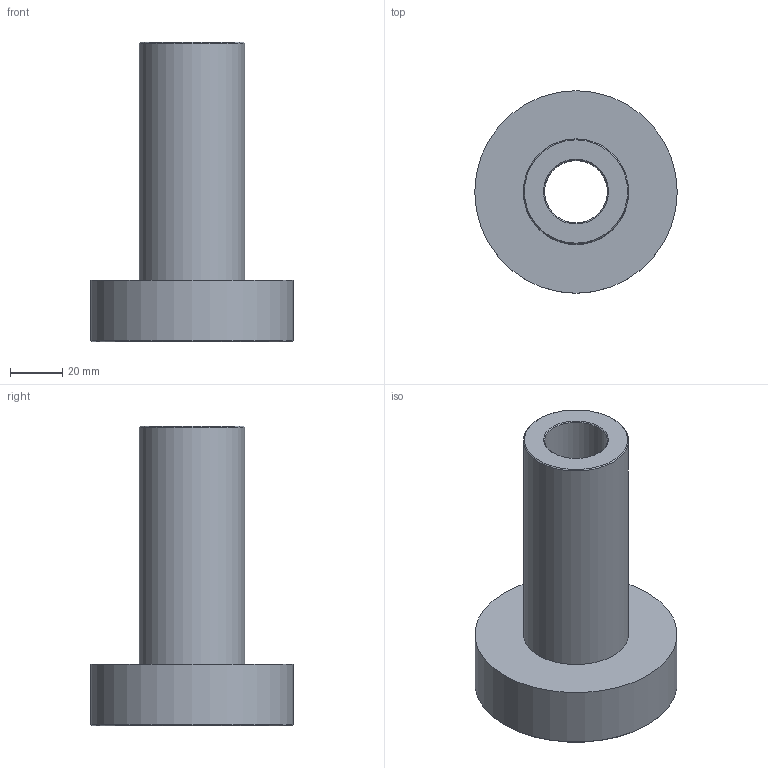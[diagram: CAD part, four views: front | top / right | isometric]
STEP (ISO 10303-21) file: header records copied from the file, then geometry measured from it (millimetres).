
FILE_DESCRIPTION(('Mechanical CAD reference from nasji.com'),'2;1');
FILE_NAME('NASJI.step','',(''),(''),'','NASJI distribution','');
FILE_SCHEMA(('AUTOMOTIVE_DESIGN { 1 0 10303 214 1 1 1 1 }'));
Length unit declared in the file: millimetre
Products named in the file (1): Open CASCADE STEP translator 7.8 58
Bounding box: 77.7 x 77.7 x 115 mm (x, y, z)
Volume: 176741.9 mm3; surface area: 34525.4 mm2
Topology: 1 solids, 1 shells, 10 faces, 17 edges, 10 vertices
Faces by surface type: cone 4, plane 3, cylinder 3
Full cylindrical faces by diameter (mm): 24.1 x1, 40.43 x1, 77.7 x1
Entity records: 466 total; most frequent: CARTESIAN_POINT 80, DIRECTION 75, ORIENTED_EDGE 34, PCURVE 34, DEFINITIONAL_REPRESENTATION 34, LINE 27, VECTOR 27, AXIS2_PLACEMENT_3D 21
